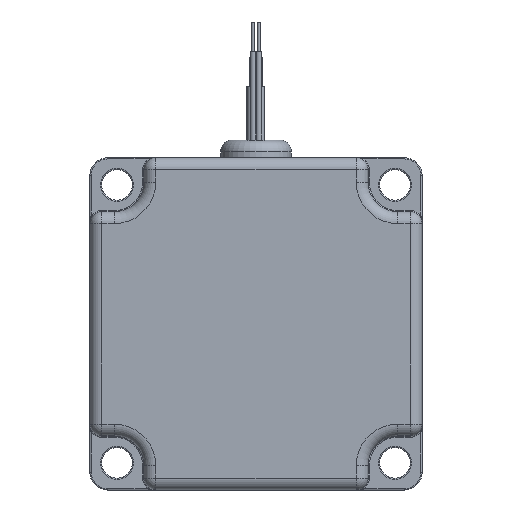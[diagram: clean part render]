
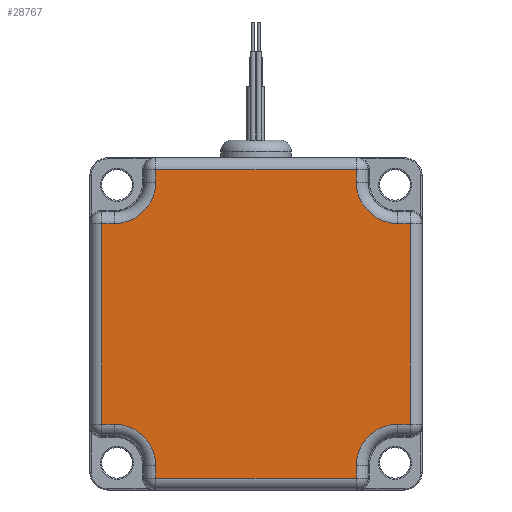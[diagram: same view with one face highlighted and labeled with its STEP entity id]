
A CAD part, front view. The second image highlights one B-rep face of the part: STEP entity #28767.
In plain terms, the highlighted planar face has unit normal (0, -1, 0).
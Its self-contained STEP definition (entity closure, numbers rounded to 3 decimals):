
#496 = VERTEX_POINT ( 'NONE', #168364 ) ;
#2540 = LINE ( 'NONE', #183559, #153078 ) ;
#5181 = VECTOR ( 'NONE', #190388, 1000. ) ;
#5687 = AXIS2_PLACEMENT_3D ( 'NONE', #185964, #23864, #51389 ) ;
#8150 = VERTEX_POINT ( 'NONE', #105080 ) ;
#8395 = FACE_OUTER_BOUND ( 'NONE', #31650, .T. ) ;
#9915 = VECTOR ( 'NONE', #40253, 1000. ) ;
#10382 = DIRECTION ( 'NONE',  ( -1., 0., 0. ) ) ;
#11389 = CARTESIAN_POINT ( 'NONE',  ( 24., -40., -24. ) ) ;
#14874 = VECTOR ( 'NONE', #65632, 1000. ) ;
#16105 = CARTESIAN_POINT ( 'NONE',  ( 17., -40., 28.15 ) ) ;
#17277 = EDGE_CURVE ( 'NONE', #59044, #141861, #2540, .T. ) ;
#17712 = CARTESIAN_POINT ( 'NONE',  ( 19., -40., -26.15 ) ) ;
#17965 = ORIENTED_EDGE ( 'NONE', *, *, #193899, .T. ) ;
#18786 = VERTEX_POINT ( 'NONE', #121229 ) ;
#19559 = ORIENTED_EDGE ( 'NONE', *, *, #169701, .T. ) ;
#23853 = LINE ( 'NONE', #56196, #173951 ) ;
#23864 = DIRECTION ( 'NONE',  ( 0., 1., 0. ) ) ;
#26544 = EDGE_CURVE ( 'NONE', #173903, #18786, #44331, .T. ) ;
#28767 = ADVANCED_FACE ( 'NONE', ( #8395 ), #143869, .T. ) ;
#29177 = VERTEX_POINT ( 'NONE', #167042 ) ;
#31650 = EDGE_LOOP ( 'NONE', ( #157031, #67249, #169236, #83583, #81859, #169060, #40045, #163381, #61659, #19559, #181841, #129940, #50124, #17965, #191603, #118776 ) ) ;
#32304 = EDGE_CURVE ( 'NONE', #122673, #34927, #23853, .T. ) ;
#34927 = VERTEX_POINT ( 'NONE', #71205 ) ;
#36014 = VECTOR ( 'NONE', #51057, 1000. ) ;
#36030 = DIRECTION ( 'NONE',  ( 0., 0., -1. ) ) ;
#37212 = CIRCLE ( 'NONE', #62238, 7. ) ;
#37859 = CARTESIAN_POINT ( 'NONE',  ( -26.15, -40., -19. ) ) ;
#40045 = ORIENTED_EDGE ( 'NONE', *, *, #182446, .T. ) ;
#40088 = CARTESIAN_POINT ( 'NONE',  ( 0., -40., 17. ) ) ;
#40253 = DIRECTION ( 'NONE',  ( -1., 0., 0. ) ) ;
#41075 = EDGE_CURVE ( 'NONE', #141861, #175726, #79679, .T. ) ;
#43223 = CIRCLE ( 'NONE', #5687, 7. ) ;
#44331 = CIRCLE ( 'NONE', #179224, 7. ) ;
#48089 = EDGE_CURVE ( 'NONE', #18786, #170872, #110975, .T. ) ;
#48106 = LINE ( 'NONE', #17712, #51487 ) ;
#50124 = ORIENTED_EDGE ( 'NONE', *, *, #61541, .T. ) ;
#51057 = DIRECTION ( 'NONE',  ( 0., 0., -1. ) ) ;
#51389 = DIRECTION ( 'NONE',  ( 0., 0., -1. ) ) ;
#51487 = VECTOR ( 'NONE', #152183, 1000. ) ;
#53133 = EDGE_CURVE ( 'NONE', #153815, #29177, #69837, .T. ) ;
#53308 = DIRECTION ( 'NONE',  ( 0., 0., -1. ) ) ;
#53699 = CARTESIAN_POINT ( 'NONE',  ( 17., -40., 24. ) ) ;
#56196 = CARTESIAN_POINT ( 'NONE',  ( -17., -40., 0. ) ) ;
#56412 = DIRECTION ( 'NONE',  ( 0., 0., -1. ) ) ;
#56545 = VECTOR ( 'NONE', #122086, 1000. ) ;
#59044 = VERTEX_POINT ( 'NONE', #123865 ) ;
#61541 = EDGE_CURVE ( 'NONE', #99325, #8150, #177317, .T. ) ;
#61659 = ORIENTED_EDGE ( 'NONE', *, *, #190856, .T. ) ;
#62238 = AXIS2_PLACEMENT_3D ( 'NONE', #11389, #71209, #161597 ) ;
#64431 = AXIS2_PLACEMENT_3D ( 'NONE', #69177, #129150, #56412 ) ;
#64548 = EDGE_CURVE ( 'NONE', #170872, #153815, #48106, .T. ) ;
#65632 = DIRECTION ( 'NONE',  ( 1., 0., 0. ) ) ;
#67249 = ORIENTED_EDGE ( 'NONE', *, *, #64548, .T. ) ;
#69177 = CARTESIAN_POINT ( 'NONE',  ( 0., -40., 0. ) ) ;
#69837 = LINE ( 'NONE', #98363, #188502 ) ;
#70512 = LINE ( 'NONE', #40088, #5181 ) ;
#71205 = CARTESIAN_POINT ( 'NONE',  ( -17., -40., 24. ) ) ;
#71209 = DIRECTION ( 'NONE',  ( 0., 1., 0. ) ) ;
#71870 = CARTESIAN_POINT ( 'NONE',  ( -24., -40., -24. ) ) ;
#79313 = DIRECTION ( 'NONE',  ( 1., 0., 0. ) ) ;
#79679 = LINE ( 'NONE', #139716, #100186 ) ;
#81399 = CARTESIAN_POINT ( 'NONE',  ( -17., -40., -28.15 ) ) ;
#81859 = ORIENTED_EDGE ( 'NONE', *, *, #17277, .T. ) ;
#82979 = EDGE_CURVE ( 'NONE', #102379, #120301, #124693, .T. ) ;
#83583 = ORIENTED_EDGE ( 'NONE', *, *, #89839, .T. ) ;
#86965 = VECTOR ( 'NONE', #10382, 1000. ) ;
#89839 = EDGE_CURVE ( 'NONE', #29177, #59044, #37212, .T. ) ;
#90629 = CARTESIAN_POINT ( 'NONE',  ( -17., -40., 26.15 ) ) ;
#91795 = VERTEX_POINT ( 'NONE', #112675 ) ;
#95203 = CARTESIAN_POINT ( 'NONE',  ( 0., -40., -17. ) ) ;
#95446 = EDGE_CURVE ( 'NONE', #496, #173903, #110912, .T. ) ;
#96767 = LINE ( 'NONE', #37859, #98972 ) ;
#97071 = CARTESIAN_POINT ( 'NONE',  ( -24., -40., -17. ) ) ;
#98363 = CARTESIAN_POINT ( 'NONE',  ( 17., -40., 0. ) ) ;
#98972 = VECTOR ( 'NONE', #189103, 1000. ) ;
#99325 = VERTEX_POINT ( 'NONE', #142926 ) ;
#100186 = VECTOR ( 'NONE', #155362, 1000. ) ;
#102379 = VERTEX_POINT ( 'NONE', #103046 ) ;
#102632 = CARTESIAN_POINT ( 'NONE',  ( -28.15, -40., 17. ) ) ;
#103046 = CARTESIAN_POINT ( 'NONE',  ( 24., -40., 17. ) ) ;
#105080 = CARTESIAN_POINT ( 'NONE',  ( -26.15, -40., 17. ) ) ;
#109257 = EDGE_CURVE ( 'NONE', #34927, #99325, #43223, .T. ) ;
#110695 = CARTESIAN_POINT ( 'NONE',  ( 24., -40., 24. ) ) ;
#110912 = LINE ( 'NONE', #95203, #14874 ) ;
#110975 = LINE ( 'NONE', #81399, #36014 ) ;
#112675 = CARTESIAN_POINT ( 'NONE',  ( 17., -40., 26.15 ) ) ;
#118776 = ORIENTED_EDGE ( 'NONE', *, *, #26544, .T. ) ;
#120301 = VERTEX_POINT ( 'NONE', #53699 ) ;
#121229 = CARTESIAN_POINT ( 'NONE',  ( -17., -40., -24. ) ) ;
#121448 = CARTESIAN_POINT ( 'NONE',  ( 26.15, -40., -17. ) ) ;
#122086 = DIRECTION ( 'NONE',  ( 0., 0., 1. ) ) ;
#122673 = VERTEX_POINT ( 'NONE', #90629 ) ;
#123073 = LINE ( 'NONE', #16105, #56545 ) ;
#123865 = CARTESIAN_POINT ( 'NONE',  ( 24., -40., -17. ) ) ;
#124693 = CIRCLE ( 'NONE', #152957, 7. ) ;
#128716 = LINE ( 'NONE', #145350, #9915 ) ;
#129150 = DIRECTION ( 'NONE',  ( 0., -1., 0. ) ) ;
#129940 = ORIENTED_EDGE ( 'NONE', *, *, #109257, .T. ) ;
#130837 = DIRECTION ( 'NONE',  ( 0., 1., 0. ) ) ;
#139716 = CARTESIAN_POINT ( 'NONE',  ( 26.15, -40., 0. ) ) ;
#141627 = DIRECTION ( 'NONE',  ( 0., 0., 1. ) ) ;
#141861 = VERTEX_POINT ( 'NONE', #121448 ) ;
#142726 = DIRECTION ( 'NONE',  ( 0., 0., -1. ) ) ;
#142926 = CARTESIAN_POINT ( 'NONE',  ( -24., -40., 17. ) ) ;
#143869 = PLANE ( 'NONE',  #64431 ) ;
#145350 = CARTESIAN_POINT ( 'NONE',  ( 0., -40., 26.15 ) ) ;
#148388 = CARTESIAN_POINT ( 'NONE',  ( 17., -40., -26.15 ) ) ;
#152183 = DIRECTION ( 'NONE',  ( 1., 0., 0. ) ) ;
#152957 = AXIS2_PLACEMENT_3D ( 'NONE', #110695, #166690, #36030 ) ;
#153078 = VECTOR ( 'NONE', #79313, 1000. ) ;
#153815 = VERTEX_POINT ( 'NONE', #148388 ) ;
#155362 = DIRECTION ( 'NONE',  ( 0., 0., 1. ) ) ;
#157031 = ORIENTED_EDGE ( 'NONE', *, *, #48089, .T. ) ;
#161597 = DIRECTION ( 'NONE',  ( 0., 0., -1. ) ) ;
#163381 = ORIENTED_EDGE ( 'NONE', *, *, #82979, .T. ) ;
#166690 = DIRECTION ( 'NONE',  ( 0., 1., 0. ) ) ;
#167042 = CARTESIAN_POINT ( 'NONE',  ( 17., -40., -24. ) ) ;
#168364 = CARTESIAN_POINT ( 'NONE',  ( -26.15, -40., -17. ) ) ;
#169060 = ORIENTED_EDGE ( 'NONE', *, *, #41075, .T. ) ;
#169236 = ORIENTED_EDGE ( 'NONE', *, *, #53133, .T. ) ;
#169701 = EDGE_CURVE ( 'NONE', #91795, #122673, #128716, .T. ) ;
#170872 = VERTEX_POINT ( 'NONE', #181873 ) ;
#173903 = VERTEX_POINT ( 'NONE', #97071 ) ;
#173951 = VECTOR ( 'NONE', #53308, 1000. ) ;
#175726 = VERTEX_POINT ( 'NONE', #185521 ) ;
#177317 = LINE ( 'NONE', #102632, #86965 ) ;
#179224 = AXIS2_PLACEMENT_3D ( 'NONE', #71870, #130837, #142726 ) ;
#181841 = ORIENTED_EDGE ( 'NONE', *, *, #32304, .T. ) ;
#181873 = CARTESIAN_POINT ( 'NONE',  ( -17., -40., -26.15 ) ) ;
#182446 = EDGE_CURVE ( 'NONE', #175726, #102379, #70512, .T. ) ;
#183559 = CARTESIAN_POINT ( 'NONE',  ( 28.15, -40., -17. ) ) ;
#185521 = CARTESIAN_POINT ( 'NONE',  ( 26.15, -40., 17. ) ) ;
#185964 = CARTESIAN_POINT ( 'NONE',  ( -24., -40., 24. ) ) ;
#188502 = VECTOR ( 'NONE', #141627, 1000. ) ;
#189103 = DIRECTION ( 'NONE',  ( 0., 0., -1. ) ) ;
#190388 = DIRECTION ( 'NONE',  ( -1., 0., 0. ) ) ;
#190856 = EDGE_CURVE ( 'NONE', #120301, #91795, #123073, .T. ) ;
#191603 = ORIENTED_EDGE ( 'NONE', *, *, #95446, .T. ) ;
#193899 = EDGE_CURVE ( 'NONE', #8150, #496, #96767, .T. ) ;
